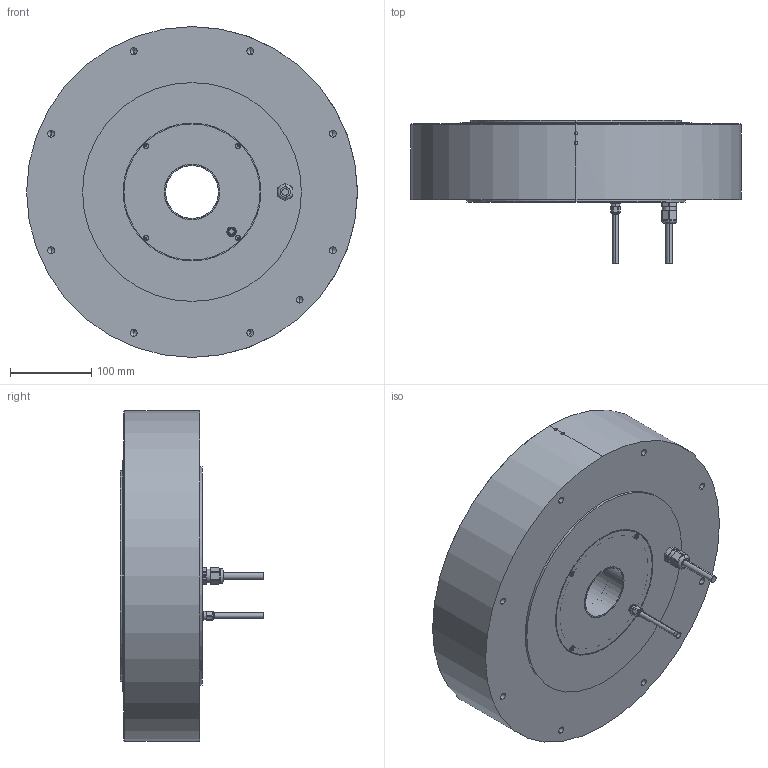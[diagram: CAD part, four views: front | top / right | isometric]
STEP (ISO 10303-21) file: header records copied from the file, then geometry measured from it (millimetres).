
FILE_DESCRIPTION (( 'STEP AP214' ), '1' );
FILE_NAME ('ND400-95-LSPB-UC.step', '2025-03-11T01:13:37', ( '' ), ( '' ), 'SwSTEP 2.0', 'SolidWorks 2024', '' );
FILE_SCHEMA (( 'AUTOMOTIVE_DESIGN' ));
Length unit declared in the file: millimetre
Products named in the file (1): ND400-95-LSPB-UC
Bounding box: 408 x 176.8 x 408 mm (x, y, z)
Volume: 4442107.1 mm3; surface area: 823196.2 mm2
Topology: 31 solids, 31 shells, 1089 faces, 2715 edges, 1680 vertices
Faces by surface type: cylinder 573, plane 218, cone 206, torus 64, sphere 28
Entity records: 34564 total; most frequent: CARTESIAN_POINT 8480, DIRECTION 5572, ORIENTED_EDGE 5206, EDGE_CURVE 2603, AXIS2_PLACEMENT_3D 2281, VERTEX_POINT 1680, EDGE_LOOP 1267, CIRCLE 1191
